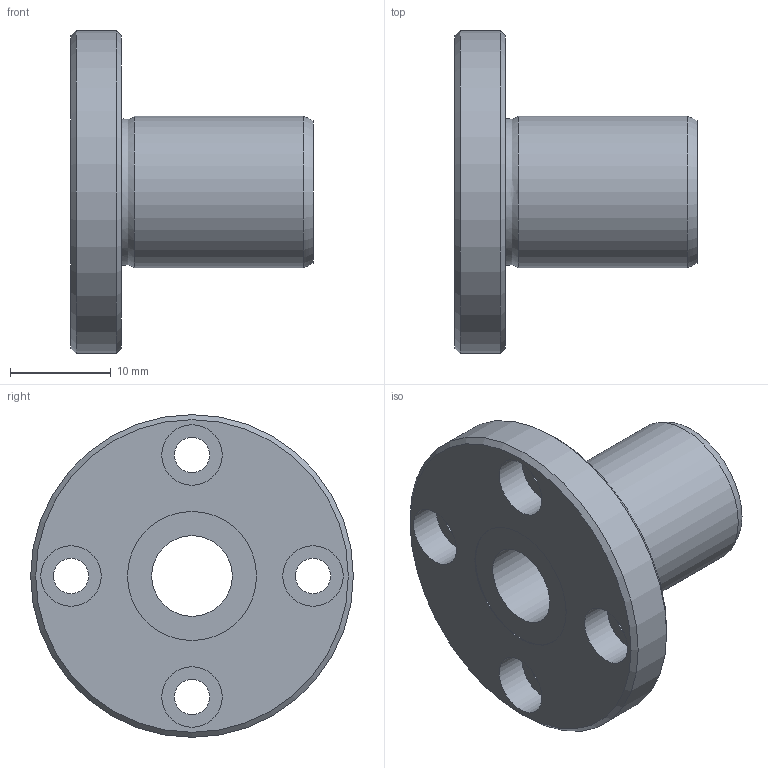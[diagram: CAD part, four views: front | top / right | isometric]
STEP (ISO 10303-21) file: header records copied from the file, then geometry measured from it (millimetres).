
FILE_DESCRIPTION((''),'2;1');
FILE_NAME('D:\製品 (図面)\カタログ用3D\リニアベアリング関連\STEP形式\LF\LF8B.stp','2010-06-03T09:11:45',('Tsuchiya'),(''),'Autodesk Inventor 10','Autodesk Inventor 10','');
FILE_SCHEMA(('AUTOMOTIVE_DESIGN { 1 0 10303 214 1 1 1 1 }'));
Length unit declared in the file: millimetre
Products named in the file (1): LF8B
Bounding box: 24 x 32 x 32 mm (x, y, z)
Volume: 5678.5 mm3; surface area: 3690.6 mm2
Topology: 1 solids, 1 shells, 26 faces, 47 edges, 30 vertices
Faces by surface type: cylinder 13, plane 9, cone 2, torus 1, bspline 1
Full cylindrical faces by diameter (mm): 3.5 x4, 6 x4, 8 x1, 12.8 x2, 15 x1, 32 x1
Entity records: 665 total; most frequent: CARTESIAN_POINT 149, DIRECTION 112, ORIENTED_EDGE 60, EDGE_LOOP 60, AXIS2_PLACEMENT_3D 56, FACE_BOUND 34, VERTEX_POINT 30, CIRCLE 30
